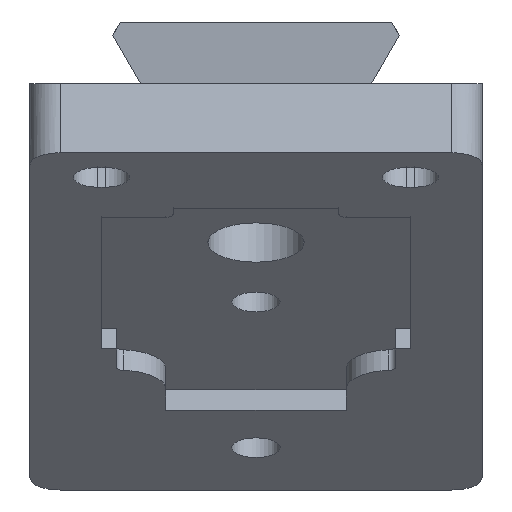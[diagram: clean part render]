
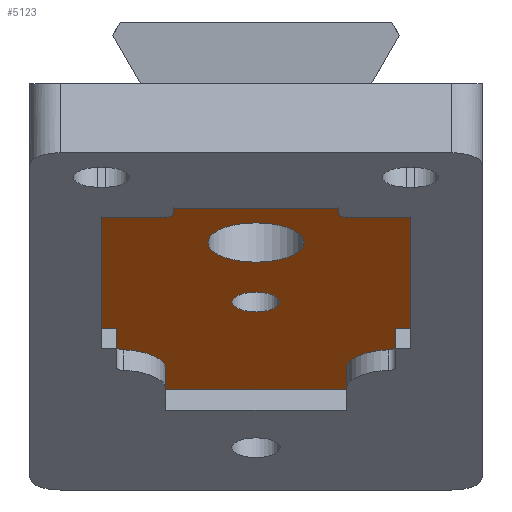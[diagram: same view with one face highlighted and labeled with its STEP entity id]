
A CAD part, left-side view. The second image highlights one B-rep face of the part: STEP entity #5123.
In plain terms, the highlighted planar face has unit normal (-0.407, 0, -0.913).
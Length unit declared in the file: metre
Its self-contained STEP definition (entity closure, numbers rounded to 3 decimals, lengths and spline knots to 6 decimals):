
#244=CIRCLE('',#5165,0.0016);
#246=CIRCLE('',#5168,0.0032);
#327=CIRCLE('',#5490,0.0005);
#328=CIRCLE('',#5491,0.003);
#329=CIRCLE('',#5492,0.003);
#330=CIRCLE('',#5493,0.0005);
#331=CIRCLE('',#5494,0.0005);
#332=CIRCLE('',#5495,0.0005);
#1743=ORIENTED_EDGE('',*,*,#2519,.T.);
#1744=ORIENTED_EDGE('',*,*,#2533,.T.);
#1745=ORIENTED_EDGE('',*,*,#2534,.T.);
#1746=ORIENTED_EDGE('',*,*,#2520,.T.);
#1747=ORIENTED_EDGE('',*,*,#2524,.T.);
#1748=ORIENTED_EDGE('',*,*,#2526,.F.);
#1749=ORIENTED_EDGE('',*,*,#2535,.T.);
#1750=ORIENTED_EDGE('',*,*,#2536,.T.);
#1751=ORIENTED_EDGE('',*,*,#2527,.F.);
#1752=ORIENTED_EDGE('',*,*,#2531,.F.);
#1753=ORIENTED_EDGE('',*,*,#2532,.T.);
#1754=ORIENTED_EDGE('',*,*,#2502,.F.);
#1755=ORIENTED_EDGE('',*,*,#2537,.T.);
#1756=ORIENTED_EDGE('',*,*,#2504,.T.);
#1757=ORIENTED_EDGE('',*,*,#2508,.T.);
#1758=ORIENTED_EDGE('',*,*,#2510,.F.);
#1759=ORIENTED_EDGE('',*,*,#2538,.T.);
#1760=ORIENTED_EDGE('',*,*,#2511,.F.);
#1761=ORIENTED_EDGE('',*,*,#2515,.F.);
#1762=ORIENTED_EDGE('',*,*,#2517,.F.);
#1763=ORIENTED_EDGE('',*,*,#1843,.F.);
#1764=ORIENTED_EDGE('',*,*,#1845,.F.);
#1843=EDGE_CURVE('',#2579,#2579,#244,.T.);
#1845=EDGE_CURVE('',#2581,#2581,#246,.T.);
#2502=EDGE_CURVE('',#3016,#3017,#3520,.T.);
#2504=EDGE_CURVE('',#3018,#3019,#3522,.T.);
#2508=EDGE_CURVE('',#3019,#3020,#3526,.T.);
#2510=EDGE_CURVE('',#3021,#3020,#3528,.T.);
#2511=EDGE_CURVE('',#3022,#3023,#3529,.T.);
#2515=EDGE_CURVE('',#3024,#3022,#3533,.T.);
#2517=EDGE_CURVE('',#3025,#3024,#3535,.T.);
#2519=EDGE_CURVE('',#3025,#3026,#3537,.T.);
#2520=EDGE_CURVE('',#3027,#3028,#3538,.T.);
#2524=EDGE_CURVE('',#3028,#3029,#3542,.T.);
#2526=EDGE_CURVE('',#3030,#3029,#3544,.T.);
#2527=EDGE_CURVE('',#3031,#3032,#3545,.T.);
#2531=EDGE_CURVE('',#3033,#3031,#3549,.T.);
#2532=EDGE_CURVE('',#3033,#3017,#3550,.T.);
#2533=EDGE_CURVE('',#3026,#3034,#327,.T.);
#2534=EDGE_CURVE('',#3034,#3027,#328,.F.);
#2535=EDGE_CURVE('',#3030,#3035,#329,.F.);
#2536=EDGE_CURVE('',#3035,#3032,#330,.T.);
#2537=EDGE_CURVE('',#3016,#3018,#331,.F.);
#2538=EDGE_CURVE('',#3021,#3023,#332,.F.);
#2579=VERTEX_POINT('',#6823);
#2581=VERTEX_POINT('',#6828);
#3016=VERTEX_POINT('',#8648);
#3017=VERTEX_POINT('',#8650);
#3018=VERTEX_POINT('',#8654);
#3019=VERTEX_POINT('',#8655);
#3020=VERTEX_POINT('',#8660);
#3021=VERTEX_POINT('',#8664);
#3022=VERTEX_POINT('',#8668);
#3023=VERTEX_POINT('',#8669);
#3024=VERTEX_POINT('',#8674);
#3025=VERTEX_POINT('',#8678);
#3026=VERTEX_POINT('',#8682);
#3027=VERTEX_POINT('',#8686);
#3028=VERTEX_POINT('',#8687);
#3029=VERTEX_POINT('',#8692);
#3030=VERTEX_POINT('',#8696);
#3031=VERTEX_POINT('',#8700);
#3032=VERTEX_POINT('',#8701);
#3033=VERTEX_POINT('',#8706);
#3034=VERTEX_POINT('',#8712);
#3035=VERTEX_POINT('',#8715);
#3520=LINE('',#8649,#4037);
#3522=LINE('',#8653,#4039);
#3526=LINE('',#8661,#4043);
#3528=LINE('',#8665,#4045);
#3529=LINE('',#8667,#4046);
#3533=LINE('',#8675,#4050);
#3535=LINE('',#8679,#4052);
#3537=LINE('',#8683,#4054);
#3538=LINE('',#8685,#4055);
#3542=LINE('',#8693,#4059);
#3544=LINE('',#8697,#4061);
#3545=LINE('',#8699,#4062);
#3549=LINE('',#8707,#4066);
#3550=LINE('',#8709,#4067);
#4037=VECTOR('',#6650,1.);
#4039=VECTOR('',#6654,1.);
#4043=VECTOR('',#6660,1.);
#4045=VECTOR('',#6664,1.);
#4046=VECTOR('',#6667,1.);
#4050=VECTOR('',#6673,1.);
#4052=VECTOR('',#6677,1.);
#4054=VECTOR('',#6681,1.);
#4055=VECTOR('',#6684,1.);
#4059=VECTOR('',#6690,1.);
#4061=VECTOR('',#6694,1.);
#4062=VECTOR('',#6697,1.);
#4066=VECTOR('',#6703,1.);
#4067=VECTOR('',#6706,1.);
#4368=EDGE_LOOP('',(#1743,#1744,#1745,#1746,#1747,#1748,#1749,#1750,#1751,
#1752,#1753,#1754,#1755,#1756,#1757,#1758,#1759,#1760,#1761,#1762));
#4369=EDGE_LOOP('',(#1763));
#4370=EDGE_LOOP('',(#1764));
#4679=FACE_BOUND('',#4368,.T.);
#4680=FACE_BOUND('',#4369,.T.);
#4681=FACE_BOUND('',#4370,.T.);
#4861=PLANE('',#5489);
#5123=ADVANCED_FACE('',(#4679,#4680,#4681),#4861,.T.);
#5165=AXIS2_PLACEMENT_3D('',#6822,#5566,#5567);
#5168=AXIS2_PLACEMENT_3D('',#6827,#5572,#5573);
#5489=AXIS2_PLACEMENT_3D('',#8710,#6707,#6708);
#5490=AXIS2_PLACEMENT_3D('',#8711,#6709,#6710);
#5491=AXIS2_PLACEMENT_3D('',#8713,#6711,#6712);
#5492=AXIS2_PLACEMENT_3D('',#8714,#6713,#6714);
#5493=AXIS2_PLACEMENT_3D('',#8716,#6715,#6716);
#5494=AXIS2_PLACEMENT_3D('',#8717,#6717,#6718);
#5495=AXIS2_PLACEMENT_3D('',#8718,#6719,#6720);
#5566=DIRECTION('',(-0.407,0.,-0.914));
#5567=DIRECTION('',(-0.914,0.,0.407));
#5572=DIRECTION('',(-0.407,0.,-0.914));
#5573=DIRECTION('',(-0.914,0.,0.407));
#6650=DIRECTION('',(0.,-1.,0.));
#6654=DIRECTION('',(-0.914,0.,0.407));
#6660=DIRECTION('',(0.,1.,0.));
#6664=DIRECTION('',(-0.914,0.,0.407));
#6667=DIRECTION('',(0.,-1.,0.));
#6673=DIRECTION('',(-0.914,0.,0.407));
#6677=DIRECTION('',(0.,1.,0.));
#6681=DIRECTION('',(0.914,0.,-0.407));
#6684=DIRECTION('',(0.914,0.,-0.407));
#6690=DIRECTION('',(0.,-1.,0.));
#6694=DIRECTION('',(0.914,0.,-0.407));
#6697=DIRECTION('',(0.914,0.,-0.407));
#6703=DIRECTION('',(0.,1.,0.));
#6706=DIRECTION('',(-0.914,0.,0.407));
#6707=DIRECTION('',(-0.407,0.,-0.914));
#6708=DIRECTION('',(0.914,0.,-0.407));
#6709=DIRECTION('',(-0.407,0.,-0.914));
#6710=DIRECTION('',(-0.914,0.,0.407));
#6711=DIRECTION('',(-0.407,0.,-0.914));
#6712=DIRECTION('',(-0.914,0.,0.407));
#6713=DIRECTION('',(-0.407,0.,-0.914));
#6714=DIRECTION('',(-0.914,0.,0.407));
#6715=DIRECTION('',(-0.407,0.,-0.914));
#6716=DIRECTION('',(-0.914,0.,0.407));
#6717=DIRECTION('',(-0.407,0.,-0.914));
#6718=DIRECTION('',(-0.914,0.,0.407));
#6719=DIRECTION('',(-0.407,0.,-0.914));
#6720=DIRECTION('',(-0.914,0.,0.407));
#6822=CARTESIAN_POINT('',(0.023877,0.,-0.014475));
#6823=CARTESIAN_POINT('',(0.022415,0.,-0.013825));
#6827=CARTESIAN_POINT('',(0.015015,0.,-0.01053));
#6828=CARTESIAN_POINT('',(0.012092,0.,-0.009228));
#8648=CARTESIAN_POINT('',(0.008164,-0.006,-0.007479));
#8649=CARTESIAN_POINT('',(0.008164,-0.007875,-0.007479));
#8650=CARTESIAN_POINT('',(0.008164,-0.01025,-0.007479));
#8653=CARTESIAN_POINT('',(0.007524,-0.0055,-0.007195));
#8654=CARTESIAN_POINT('',(0.007707,-0.0055,-0.007276));
#8655=CARTESIAN_POINT('',(0.006885,-0.0055,-0.00691));
#8660=CARTESIAN_POINT('',(0.006885,0.0055,-0.00691));
#8661=CARTESIAN_POINT('',(0.006885,0.,-0.00691));
#8664=CARTESIAN_POINT('',(0.007707,0.0055,-0.007276));
#8665=CARTESIAN_POINT('',(0.007524,0.0055,-0.007195));
#8667=CARTESIAN_POINT('',(0.008164,0.007875,-0.007479));
#8668=CARTESIAN_POINT('',(0.008164,0.01025,-0.007479));
#8669=CARTESIAN_POINT('',(0.008164,0.006,-0.007479));
#8674=CARTESIAN_POINT('',(0.027805,0.01025,-0.016224));
#8675=CARTESIAN_POINT('',(0.017984,0.01025,-0.011852));
#8678=CARTESIAN_POINT('',(0.027805,0.00925,-0.016224));
#8679=CARTESIAN_POINT('',(0.027805,0.00975,-0.016224));
#8682=CARTESIAN_POINT('',(0.030554,0.00925,-0.017448));
#8683=CARTESIAN_POINT('',(0.029404,0.00925,-0.016936));
#8685=CARTESIAN_POINT('',(0.033971,0.006,-0.01897));
#8686=CARTESIAN_POINT('',(0.033743,0.006,-0.018868));
#8687=CARTESIAN_POINT('',(0.03694,0.006,-0.020292));
#8692=CARTESIAN_POINT('',(0.03694,-0.006,-0.020292));
#8693=CARTESIAN_POINT('',(0.03694,0.,-0.020292));
#8696=CARTESIAN_POINT('',(0.033743,-0.006,-0.018868));
#8697=CARTESIAN_POINT('',(0.033971,-0.006,-0.01897));
#8699=CARTESIAN_POINT('',(0.029404,-0.00925,-0.016936));
#8700=CARTESIAN_POINT('',(0.027805,-0.00925,-0.016224));
#8701=CARTESIAN_POINT('',(0.030554,-0.00925,-0.017448));
#8706=CARTESIAN_POINT('',(0.027805,-0.01025,-0.016224));
#8707=CARTESIAN_POINT('',(0.027805,-0.00975,-0.016224));
#8709=CARTESIAN_POINT('',(0.02141,-0.01025,-0.013377));
#8710=CARTESIAN_POINT('',(0.023694,0.,-0.014394));
#8711=CARTESIAN_POINT('',(0.030554,0.00875,-0.017448));
#8712=CARTESIAN_POINT('',(0.031009,0.008786,-0.017651));
#8713=CARTESIAN_POINT('',(0.033743,0.009,-0.018868));
#8714=CARTESIAN_POINT('',(0.033743,-0.009,-0.018868));
#8715=CARTESIAN_POINT('',(0.031009,-0.008786,-0.017651));
#8716=CARTESIAN_POINT('',(0.030554,-0.00875,-0.017448));
#8717=CARTESIAN_POINT('',(0.007707,-0.006,-0.007276));
#8718=CARTESIAN_POINT('',(0.007707,0.006,-0.007276));
